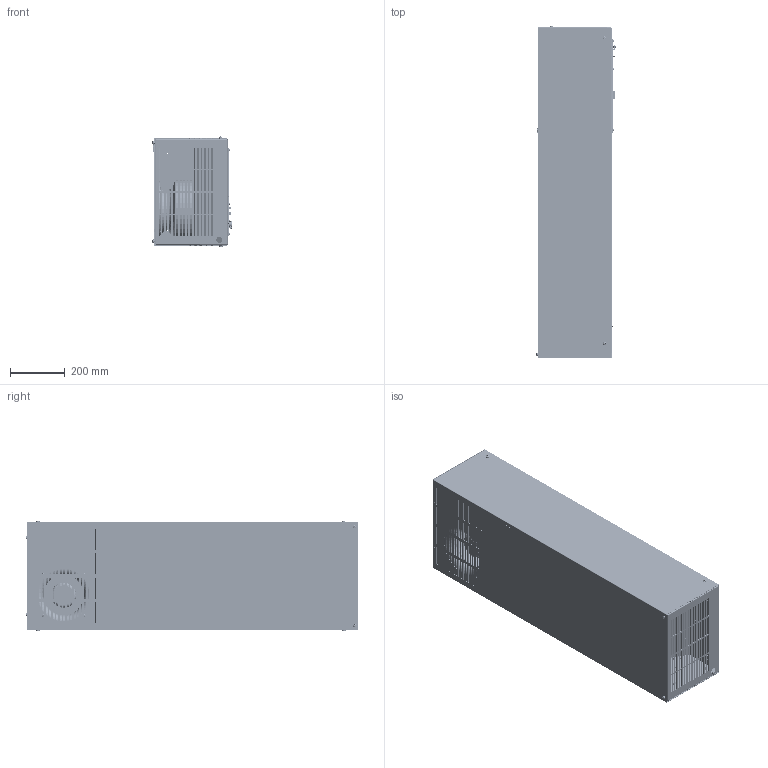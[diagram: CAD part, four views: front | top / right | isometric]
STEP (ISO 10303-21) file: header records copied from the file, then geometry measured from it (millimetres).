
FILE_DESCRIPTION (( 'STEP AP214' ), '1' );
FILE_NAME ('32x1 3041.STEP', '2025-11-03T19:57:24', ( '' ), ( '' ), 'SwSTEP 2.0', 'SolidWorks 2024', '' );
FILE_SCHEMA (( 'AUTOMOTIVE_DESIGN' ));
Length unit declared in the file: millimetre
Products named in the file (1): 32x1 3041
Bounding box: 291.15 x 1212.15 x 405.57 mm (x, y, z)
Volume: 5942549.2 mm3; surface area: 8182781.4 mm2
Topology: 201 solids, 201 shells, 18329 faces, 48490 edges, 30832 vertices
Faces by surface type: plane 9307, cylinder 5549, cone 1533, bspline 1214, torus 468, sphere 258
Entity records: 627743 total; most frequent: CARTESIAN_POINT 170196, ORIENTED_EDGE 95896, DIRECTION 93169, EDGE_CURVE 47948, AXIS2_PLACEMENT_3D 31348, VERTEX_POINT 30536, LINE 30473, VECTOR 30473
